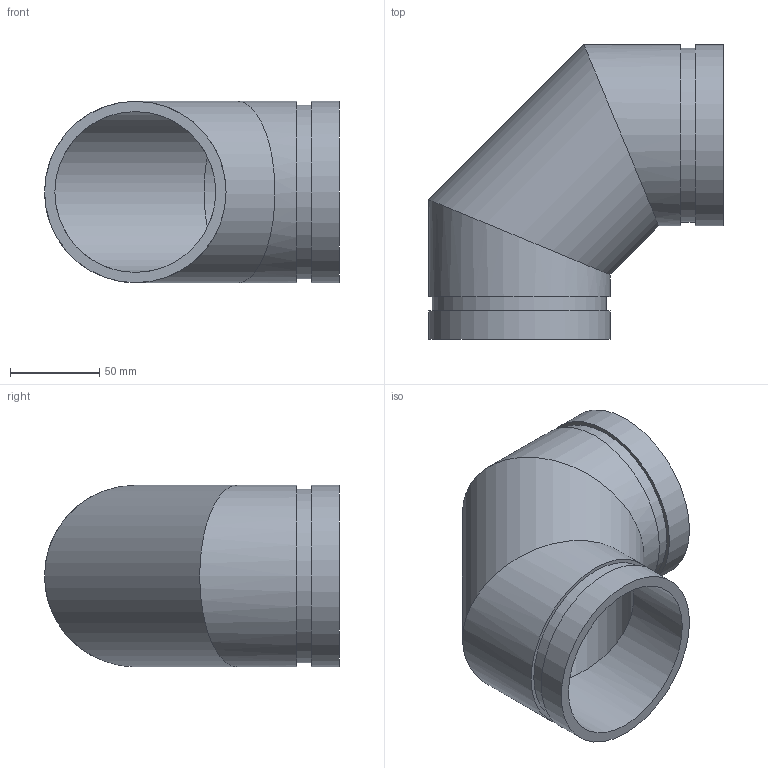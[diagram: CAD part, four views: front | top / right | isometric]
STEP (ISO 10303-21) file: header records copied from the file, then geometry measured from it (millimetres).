
FILE_DESCRIPTION(/* description */ ('VIC 90 DEG ELBOW FABRICATED No 10 SWS (OGS)','CAx-IF Rec.Pracs.---Representation and Presentation of Product Manufacturing Information (PMI)---4.0---2014-10-13'),/* implementation_level */ '2;1');
FILE_NAME(/* name */ 'C:\Users\kkamble\AppData\Roaming\Autodesk\ApplicationPlugins\Back Up\Victaulic_IPS_Elbow 90 Deg_No 10 SWS (OGS)\Victaulic_IPS_Elbow 90 Deg_No 10 SWS (OGS)_3.5 (90).stp',/* time_stamp */ '2020-09-16T22:17:39+06:00',/* author */ ('cgray'),/* organization */ ('Victaulic'),/* preprocessor_version */ 'ST-DEVELOPER v17.2',/* originating_system */ 'Autodesk Inventor 2019',/* authorisation */ '');
FILE_SCHEMA (('AP242_MANAGED_MODEL_BASED_3D_ENGINEERING_MIM_LF { 1 0 10303 442 1 1 4 }'));
Length unit declared in the file: inch
Products named in the file (1): 10 SWS-03.5
Bounding box: 165.1 x 165.1 x 101.6 mm (x, y, z)
Volume: 326836.7 mm3; surface area: 123405.5 mm2
Topology: 1 solids, 1 shells, 16 faces, 38 edges, 28 vertices
Faces by surface type: cylinder 10, plane 6
Full cylindrical faces by diameter (mm): 90.119 x3, 97.384 x2, 101.6 x5
Entity records: 646 total; most frequent: DIRECTION 126, CARTESIAN_POINT 100, ORIENTED_EDGE 76, AXIS2_PLACEMENT_3D 58, EDGE_CURVE 38, VERTEX_POINT 28, EDGE_LOOP 22, STYLED_ITEM 18
